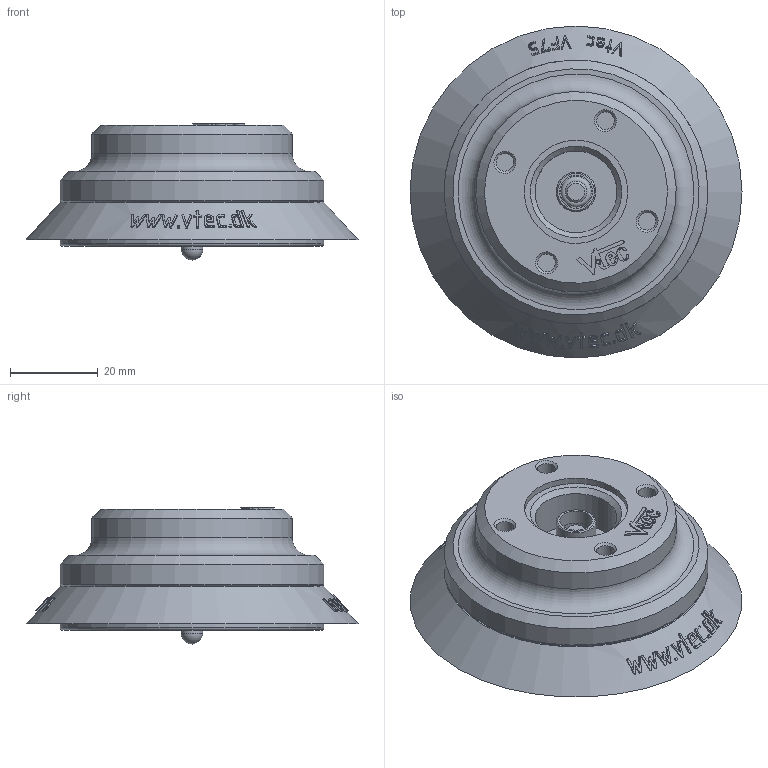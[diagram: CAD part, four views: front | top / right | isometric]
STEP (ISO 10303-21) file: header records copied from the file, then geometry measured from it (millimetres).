
FILE_DESCRIPTION( ( 'Unknown' ), '1' );
FILE_NAME( 'C:/Documents and Settings/owner/官帕 拳搁/MISUMI/PAD/VF/VF75-N-12FA-BV.stp', 'Unknown', ( 'Unknown' ), ( 'Unknown' ), 'XStep 1.0', 'Unknown', ' ' );
FILE_SCHEMA( ( 'automotive_design' ) );
Length unit declared in the file: millimetre
Products named in the file (5): Assem1; 1; 2; VF75 BV
Bounding box: 75.5 x 75.5 x 30.95 mm (x, y, z)
Volume: 97745.8 mm3; surface area: 47224.4 mm2
Topology: 8 solids, 8 shells, 748 faces, 1888 edges, 1252 vertices
Faces by surface type: plane 364, cylinder 160, bspline 122, cone 72, extrusion 18, torus 10, sphere 2
Full cylindrical faces by diameter (mm): 0.791 x2, 4 x16, 4.9 x2, 5 x2, 6 x8, 7.5 x2, 9 x2, 10.5 x2, 11 x2, 15 x4, 18.6 x2, 23.5 x2, 25 x2, 45.6 x2, 55 x4, 60 x2
Entity records: 16081 total; most frequent: CARTESIAN_POINT 7435, ORIENTED_EDGE 1760, DIRECTION 1530, EDGE_CURVE 880, AXIS2_PLACEMENT_3D 621, VERTEX_POINT 610, EDGE_LOOP 482, FACE_OUTER_BOUND 407
